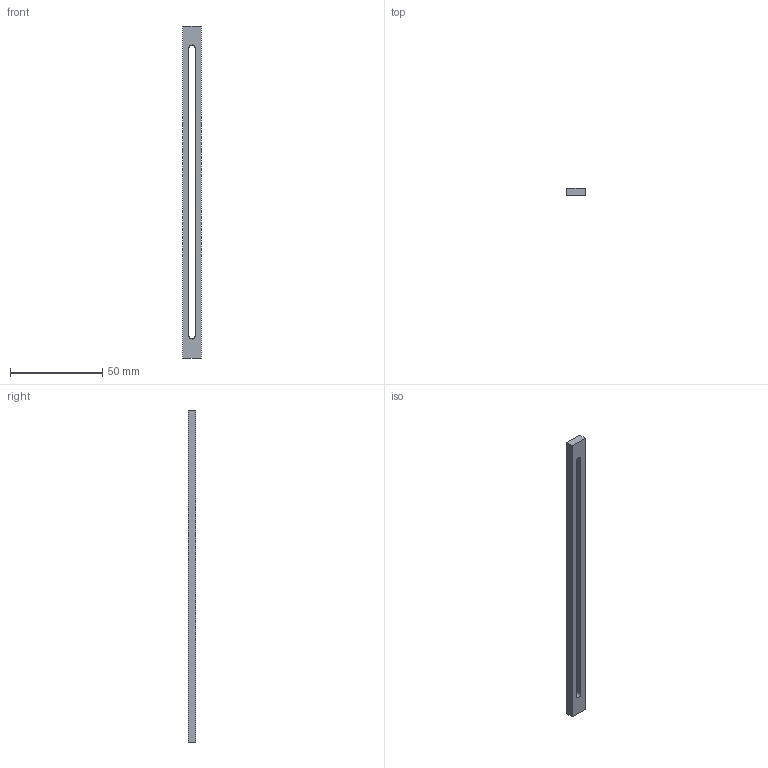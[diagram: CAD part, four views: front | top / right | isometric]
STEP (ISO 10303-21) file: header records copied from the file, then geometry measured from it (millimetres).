
FILE_DESCRIPTION(('Open CASCADE Model'),'2;1');
FILE_NAME('Open CASCADE Shape Model','2026-11-08T04:10:21',('Author'),( 'Open CASCADE'),'Open CASCADE STEP processor 7.8','Open CASCADE 7.8' ,'Unknown');
FILE_SCHEMA(('AUTOMOTIVE_DESIGN { 1 0 10303 214 1 1 1 1 }'));
Length unit declared in the file: millimetre
Products named in the file (1): Open CASCADE STEP translator 7.8 4
Bounding box: 10 x 4 x 180 mm (x, y, z)
Volume: 5042.1 mm3; surface area: 5331.8 mm2
Topology: 1 solids, 1 shells, 10 faces, 24 edges, 16 vertices
Faces by surface type: plane 8, cylinder 2
Entity records: 608 total; most frequent: CARTESIAN_POINT 109, DIRECTION 88, LINE 54, VECTOR 54, ORIENTED_EDGE 48, PCURVE 48, DEFINITIONAL_REPRESENTATION 48, EDGE_CURVE 24
